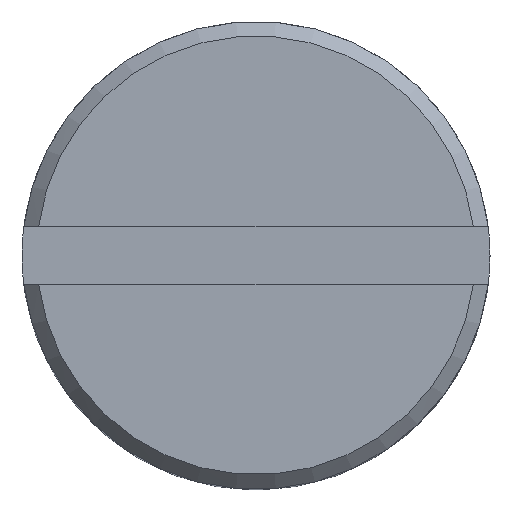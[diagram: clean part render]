
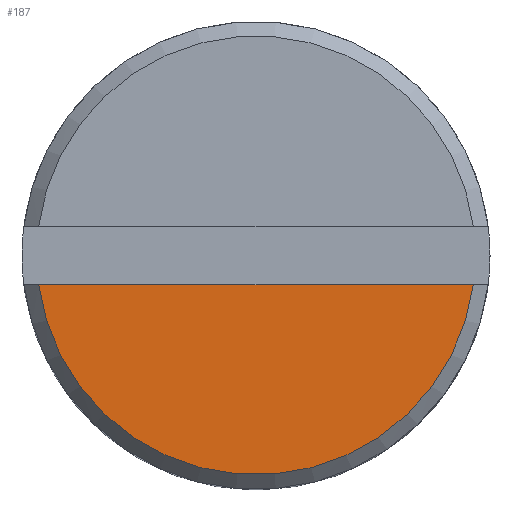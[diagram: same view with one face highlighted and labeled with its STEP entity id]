
A CAD part, top view. The second image highlights one B-rep face of the part: STEP entity #187.
In plain terms, the highlighted planar face has unit normal (0, 0, 1).
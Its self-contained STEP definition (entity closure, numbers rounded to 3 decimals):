
#12 = EDGE_CURVE ( 'NONE', #61, #67, #241, .T. ) ;
#30 = ORIENTED_EDGE ( 'NONE', *, *, #12, .T. ) ;
#61 = VERTEX_POINT ( 'NONE', #424 ) ;
#67 = VERTEX_POINT ( 'NONE', #217 ) ;
#82 = EDGE_CURVE ( 'NONE', #67, #61, #306, .T. ) ;
#130 = ORIENTED_EDGE ( 'NONE', *, *, #82, .T. ) ;
#180 = EDGE_LOOP ( 'NONE', ( #130, #30 ) ) ;
#187 = ADVANCED_FACE ( 'NONE', ( #263 ), #264, .F. ) ;
#217 = CARTESIAN_POINT ( 'NONE',  ( -7.433, -1., 0. ) ) ;
#241 = LINE ( 'NONE', #242, #243 ) ;
#242 = CARTESIAN_POINT ( 'NONE',  ( 0., -1., 0. ) ) ;
#243 = VECTOR ( 'NONE', #244, 1000. ) ;
#244 = DIRECTION ( 'NONE',  ( -1., 0., 0. ) ) ;
#263 = FACE_OUTER_BOUND ( 'NONE', #180, .T. ) ;
#264 = PLANE ( 'NONE',  #265 ) ;
#265 = AXIS2_PLACEMENT_3D ( 'NONE', #266, #267, #268 ) ;
#266 = CARTESIAN_POINT ( 'NONE',  ( 0., 0., 0. ) ) ;
#267 = DIRECTION ( 'NONE',  ( 0., 0., -1. ) ) ;
#268 = DIRECTION ( 'NONE',  ( -1., 0., 0. ) ) ;
#306 = CIRCLE ( 'NONE', #307, 7.5 ) ;
#307 = AXIS2_PLACEMENT_3D ( 'NONE', #308, #309, #312 ) ;
#308 = CARTESIAN_POINT ( 'NONE',  ( 0., 0., 0. ) ) ;
#309 = DIRECTION ( 'NONE',  ( 0., 0., 1. ) ) ;
#312 = DIRECTION ( 'NONE',  ( 1., 0., 0. ) ) ;
#424 = CARTESIAN_POINT ( 'NONE',  ( 7.433, -1., 0. ) ) ;
